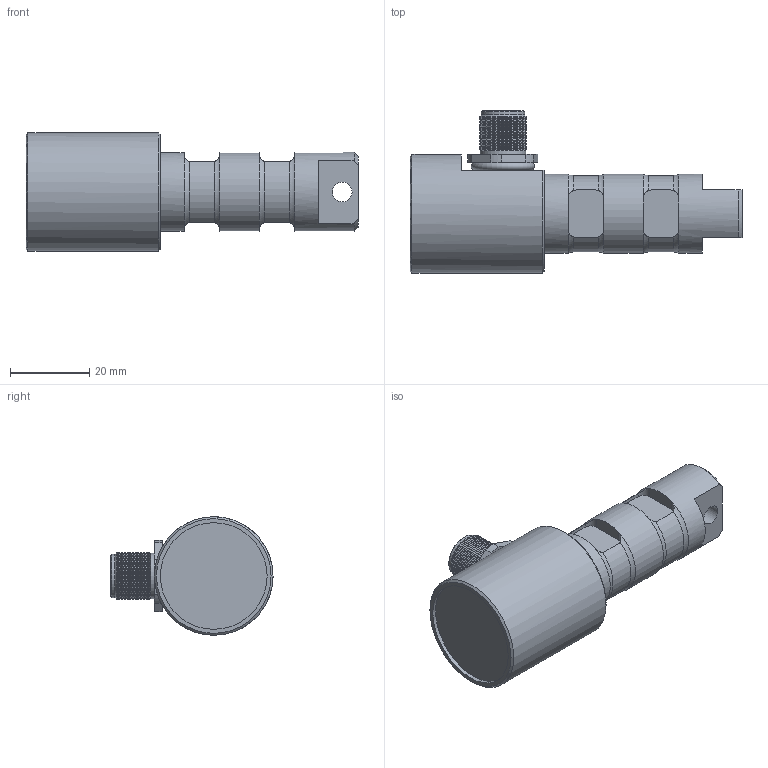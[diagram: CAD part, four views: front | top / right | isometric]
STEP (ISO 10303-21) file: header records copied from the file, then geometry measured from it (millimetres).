
FILE_DESCRIPTION(/* description */ ('Alibre Inc.'),/* implementation_level */ '2;1');
FILE_NAME(/* name */ 'export-1558A6AA-E61D-48C8-B00B-2B3DEA097DEE',/* time_stamp */ '2025-05-22T12:00:37+02:00',/* author */ (''),/* organization */ (''),/* preprocessor_version */ 'ST-DEVELOPER v17',/* originating_system */ 'Alibre',/* authorisation */ '');
FILE_SCHEMA (('CONFIG_CONTROL_DESIGN'));
Length unit declared in the file: centimetre
Bounding box: 84 x 41 x 30 mm (x, y, z)
Surface area: 161963.5 mm2
Topology: 7 solids, 8 shells, 229 faces, 506 edges, 300 vertices
Faces by surface type: cylinder 78, cone 73, plane 68, torus 10
Full cylindrical faces by diameter (mm): 0.5 x10, 5 x1, 8 x2, 10 x1, 11 x1, 11.5 x1, 12 x21, 13 x2, 14.5 x1, 20 x3, 27 x1, 30 x1
Entity records: 5534 total; most frequent: CARTESIAN_POINT 1233, ORIENTED_EDGE 798, DIRECTION 704, EDGE_CURVE 393, EDGE_LOOP 346, FACE_BOUND 346, AXIS2_PLACEMENT_3D 328, VERTEX_POINT 283
